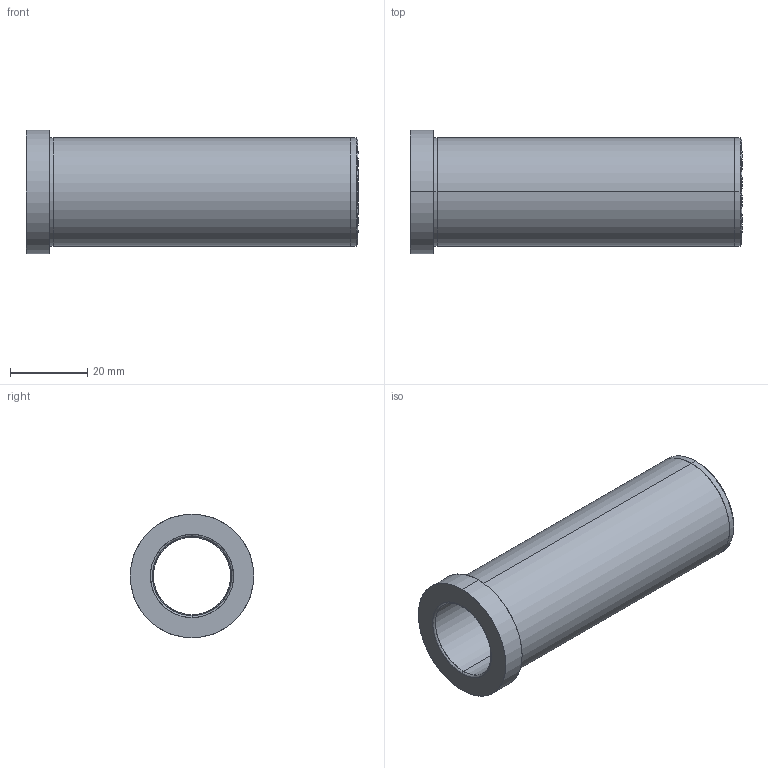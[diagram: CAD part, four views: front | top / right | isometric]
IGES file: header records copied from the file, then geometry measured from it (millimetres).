
Start section: SolidWorks IGES file using analytic representation for surfaces
Global section: file name: C:\Documents and Settings\kalite-mail\Desktop\IGS\D20\D20 - 20x86.IGS; native system: SolidWorks 2008; preprocessor: SolidWorks 2008; author: kalite-mail; date: 080617.114107; units: millimetre
Bounding box: 86 x 32 x 32 mm (x, y, z)
Surface area: 14018.3 mm2 (no closed solid volume)
Topology: 0 solids, 0 shells, 24 faces, 680 edges, 680 vertices
Faces by surface type: revolution 14, bspline 10
